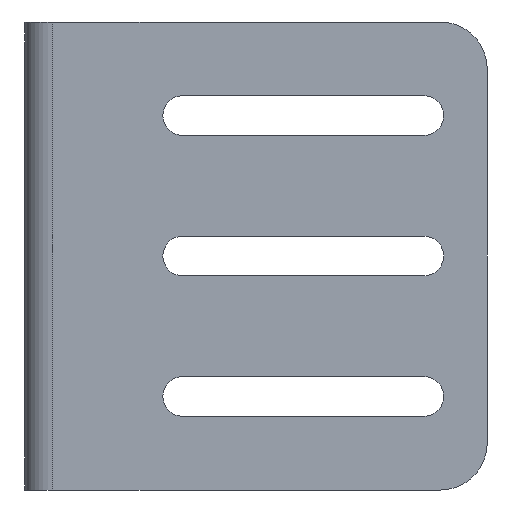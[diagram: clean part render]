
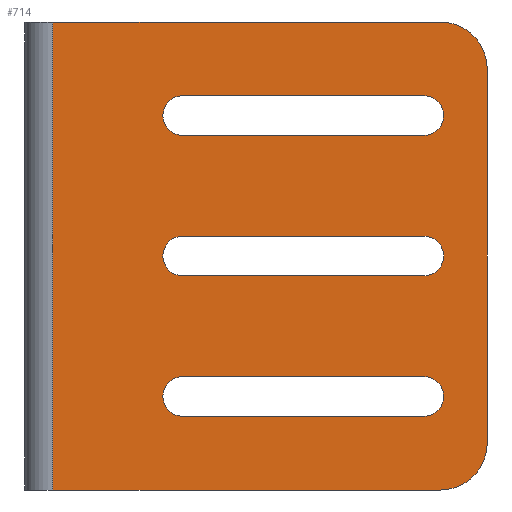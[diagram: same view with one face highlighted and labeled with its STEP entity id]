
A CAD part, front view. The second image highlights one B-rep face of the part: STEP entity #714.
In plain terms, the highlighted planar face has unit normal (0, -1, 0).
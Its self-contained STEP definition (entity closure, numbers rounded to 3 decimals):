
#3 = ORIENTED_EDGE ( 'NONE', *, *, #890, .T. ) ;
#13 = DIRECTION ( 'NONE',  ( 0., 0., -1. ) ) ;
#21 = AXIS2_PLACEMENT_3D ( 'NONE', #69, #354, #266 ) ;
#22 = VERTEX_POINT ( 'NONE', #832 ) ;
#25 = DIRECTION ( 'NONE',  ( 0., 0., 1. ) ) ;
#29 = DIRECTION ( 'NONE',  ( 0., 0., 1. ) ) ;
#48 = VECTOR ( 'NONE', #206, 1000. ) ;
#53 = CARTESIAN_POINT ( 'NONE',  ( 33.75, 0., -15.75 ) ) ;
#69 = CARTESIAN_POINT ( 'NONE',  ( 88.8, 0., -10. ) ) ;
#76 = CARTESIAN_POINT ( 'NONE',  ( 85.25, 0., -15.75 ) ) ;
#80 = EDGE_CURVE ( 'NONE', #650, #610, #694, .T. ) ;
#81 = DIRECTION ( 'NONE',  ( 1., 0., 0. ) ) ;
#97 = VERTEX_POINT ( 'NONE', #872 ) ;
#103 = DIRECTION ( 'NONE',  ( 0., 0., 1. ) ) ;
#105 = VERTEX_POINT ( 'NONE', #349 ) ;
#122 = VERTEX_POINT ( 'NONE', #76 ) ;
#127 = CARTESIAN_POINT ( 'NONE',  ( 85.25, 0., -54.25 ) ) ;
#130 = DIRECTION ( 'NONE',  ( -1., 0., 0. ) ) ;
#139 = CIRCLE ( 'NONE', #402, 4.25 ) ;
#156 = CARTESIAN_POINT ( 'NONE',  ( 33.75, 0., -15.75 ) ) ;
#174 = CARTESIAN_POINT ( 'NONE',  ( 0., 0., -100. ) ) ;
#176 = VERTEX_POINT ( 'NONE', #1040 ) ;
#178 = CARTESIAN_POINT ( 'NONE',  ( 98.8, 0., -10. ) ) ;
#184 = FACE_BOUND ( 'NONE', #741, .T. ) ;
#201 = ORIENTED_EDGE ( 'NONE', *, *, #843, .T. ) ;
#206 = DIRECTION ( 'NONE',  ( 1., 0., 0. ) ) ;
#215 = CARTESIAN_POINT ( 'NONE',  ( 33.75, 0., -20. ) ) ;
#218 = ORIENTED_EDGE ( 'NONE', *, *, #276, .T. ) ;
#219 = EDGE_CURVE ( 'NONE', #511, #610, #498, .T. ) ;
#222 = VECTOR ( 'NONE', #505, 1000. ) ;
#226 = ORIENTED_EDGE ( 'NONE', *, *, #916, .T. ) ;
#236 = ORIENTED_EDGE ( 'NONE', *, *, #566, .T. ) ;
#238 = DIRECTION ( 'NONE',  ( 0., 0., 1. ) ) ;
#244 = CARTESIAN_POINT ( 'NONE',  ( 33.75, 0., -84.25 ) ) ;
#248 = EDGE_CURVE ( 'NONE', #486, #650, #534, .T. ) ;
#251 = CARTESIAN_POINT ( 'NONE',  ( 33.75, 0., -45.75 ) ) ;
#257 = EDGE_CURVE ( 'NONE', #1007, #707, #882, .T. ) ;
#266 = DIRECTION ( 'NONE',  ( 0., 0., -1. ) ) ;
#276 = EDGE_CURVE ( 'NONE', #938, #1007, #139, .T. ) ;
#294 = CARTESIAN_POINT ( 'NONE',  ( 85.25, 0., -20. ) ) ;
#304 = ORIENTED_EDGE ( 'NONE', *, *, #940, .F. ) ;
#306 = CARTESIAN_POINT ( 'NONE',  ( 33.75, 0., -24.25 ) ) ;
#307 = CARTESIAN_POINT ( 'NONE',  ( 85.25, 0., -80. ) ) ;
#312 = CARTESIAN_POINT ( 'NONE',  ( 98.8, 0., -90. ) ) ;
#321 = EDGE_CURVE ( 'NONE', #811, #486, #576, .T. ) ;
#326 = LINE ( 'NONE', #663, #649 ) ;
#327 = EDGE_CURVE ( 'NONE', #105, #811, #1072, .T. ) ;
#330 = ORIENTED_EDGE ( 'NONE', *, *, #1043, .T. ) ;
#338 = DIRECTION ( 'NONE',  ( -1., 0., 0. ) ) ;
#342 = EDGE_CURVE ( 'NONE', #707, #176, #976, .T. ) ;
#349 = CARTESIAN_POINT ( 'NONE',  ( 6., 0., -100. ) ) ;
#354 = DIRECTION ( 'NONE',  ( 0., -1., 0. ) ) ;
#356 = AXIS2_PLACEMENT_3D ( 'NONE', #294, #886, #1071 ) ;
#374 = CIRCLE ( 'NONE', #757, 4.25 ) ;
#376 = CARTESIAN_POINT ( 'NONE',  ( 33.75, 0., -54.25 ) ) ;
#377 = CARTESIAN_POINT ( 'NONE',  ( 0., 0., -100. ) ) ;
#384 = ORIENTED_EDGE ( 'NONE', *, *, #257, .T. ) ;
#395 = CARTESIAN_POINT ( 'NONE',  ( 33.75, 0., -75.75 ) ) ;
#402 = AXIS2_PLACEMENT_3D ( 'NONE', #804, #473, #457 ) ;
#419 = ORIENTED_EDGE ( 'NONE', *, *, #777, .T. ) ;
#435 = AXIS2_PLACEMENT_3D ( 'NONE', #307, #794, #25 ) ;
#451 = CARTESIAN_POINT ( 'NONE',  ( 33.75, 0., -75.75 ) ) ;
#457 = DIRECTION ( 'NONE',  ( 0., 0., 1. ) ) ;
#466 = DIRECTION ( 'NONE',  ( 0., 1., 0. ) ) ;
#473 = DIRECTION ( 'NONE',  ( 0., 1., 0. ) ) ;
#475 = AXIS2_PLACEMENT_3D ( 'NONE', #644, #487, #477 ) ;
#477 = DIRECTION ( 'NONE',  ( 0., 0., 1. ) ) ;
#486 = VERTEX_POINT ( 'NONE', #312 ) ;
#487 = DIRECTION ( 'NONE',  ( 0., 1., 0. ) ) ;
#489 = ORIENTED_EDGE ( 'NONE', *, *, #80, .T. ) ;
#491 = VECTOR ( 'NONE', #1076, 1000. ) ;
#495 = VECTOR ( 'NONE', #630, 1000. ) ;
#498 = LINE ( 'NONE', #594, #1063 ) ;
#505 = DIRECTION ( 'NONE',  ( 1., 0., 0. ) ) ;
#511 = VERTEX_POINT ( 'NONE', #1004 ) ;
#514 = DIRECTION ( 'NONE',  ( 1., 0., 0. ) ) ;
#522 = DIRECTION ( 'NONE',  ( 0., -1., 0. ) ) ;
#528 = ORIENTED_EDGE ( 'NONE', *, *, #327, .T. ) ;
#530 = CIRCLE ( 'NONE', #1044, 4.25 ) ;
#534 = LINE ( 'NONE', #971, #968 ) ;
#536 = PLANE ( 'NONE',  #840 ) ;
#558 = ORIENTED_EDGE ( 'NONE', *, *, #1009, .T. ) ;
#565 = CARTESIAN_POINT ( 'NONE',  ( 88.8, 0., -100. ) ) ;
#566 = EDGE_CURVE ( 'NONE', #22, #737, #1032, .T. ) ;
#576 = CIRCLE ( 'NONE', #736, 10. ) ;
#577 = EDGE_LOOP ( 'NONE', ( #218, #384, #1093, #673 ) ) ;
#580 = VERTEX_POINT ( 'NONE', #127 ) ;
#582 = VECTOR ( 'NONE', #338, 1000. ) ;
#594 = CARTESIAN_POINT ( 'NONE',  ( 0., 0., 0. ) ) ;
#605 = VECTOR ( 'NONE', #514, 1000. ) ;
#610 = VERTEX_POINT ( 'NONE', #687 ) ;
#619 = VERTEX_POINT ( 'NONE', #884 ) ;
#630 = DIRECTION ( 'NONE',  ( 1., 0., 0. ) ) ;
#644 = CARTESIAN_POINT ( 'NONE',  ( 33.75, 0., -50. ) ) ;
#649 = VECTOR ( 'NONE', #1120, 1000. ) ;
#650 = VERTEX_POINT ( 'NONE', #178 ) ;
#651 = LINE ( 'NONE', #988, #689 ) ;
#653 = ORIENTED_EDGE ( 'NONE', *, *, #321, .T. ) ;
#663 = CARTESIAN_POINT ( 'NONE',  ( 6., 0., -100. ) ) ;
#673 = ORIENTED_EDGE ( 'NONE', *, *, #792, .T. ) ;
#680 = ORIENTED_EDGE ( 'NONE', *, *, #219, .F. ) ;
#687 = CARTESIAN_POINT ( 'NONE',  ( 88.8, 0., 0. ) ) ;
#689 = VECTOR ( 'NONE', #130, 1000. ) ;
#694 = CIRCLE ( 'NONE', #21, 10. ) ;
#699 = FACE_BOUND ( 'NONE', #972, .T. ) ;
#707 = VERTEX_POINT ( 'NONE', #786 ) ;
#708 = DIRECTION ( 'NONE',  ( 0., 0., -1. ) ) ;
#714 = ADVANCED_FACE ( 'NONE', ( #801, #699, #184, #1053 ), #536, .T. ) ;
#736 = AXIS2_PLACEMENT_3D ( 'NONE', #1059, #892, #13 ) ;
#737 = VERTEX_POINT ( 'NONE', #790 ) ;
#741 = EDGE_LOOP ( 'NONE', ( #419, #226, #558, #1061 ) ) ;
#751 = DIRECTION ( 'NONE',  ( 0., 1., 0. ) ) ;
#757 = AXIS2_PLACEMENT_3D ( 'NONE', #854, #751, #238 ) ;
#777 = EDGE_CURVE ( 'NONE', #97, #950, #530, .T. ) ;
#786 = CARTESIAN_POINT ( 'NONE',  ( 85.25, 0., -75.75 ) ) ;
#790 = CARTESIAN_POINT ( 'NONE',  ( 85.25, 0., -45.75 ) ) ;
#792 = EDGE_CURVE ( 'NONE', #176, #938, #651, .T. ) ;
#794 = DIRECTION ( 'NONE',  ( 0., 1., 0. ) ) ;
#801 = FACE_BOUND ( 'NONE', #577, .T. ) ;
#804 = CARTESIAN_POINT ( 'NONE',  ( 33.75, 0., -80. ) ) ;
#811 = VERTEX_POINT ( 'NONE', #565 ) ;
#832 = CARTESIAN_POINT ( 'NONE',  ( 33.75, 0., -45.75 ) ) ;
#838 = LINE ( 'NONE', #53, #222 ) ;
#840 = AXIS2_PLACEMENT_3D ( 'NONE', #174, #522, #708 ) ;
#843 = EDGE_CURVE ( 'NONE', #934, #22, #963, .T. ) ;
#847 = ORIENTED_EDGE ( 'NONE', *, *, #248, .T. ) ;
#854 = CARTESIAN_POINT ( 'NONE',  ( 85.25, 0., -50. ) ) ;
#872 = CARTESIAN_POINT ( 'NONE',  ( 33.75, 0., -24.25 ) ) ;
#882 = LINE ( 'NONE', #395, #495 ) ;
#884 = CARTESIAN_POINT ( 'NONE',  ( 85.25, 0., -24.25 ) ) ;
#886 = DIRECTION ( 'NONE',  ( 0., 1., 0. ) ) ;
#890 = EDGE_CURVE ( 'NONE', #737, #580, #374, .T. ) ;
#892 = DIRECTION ( 'NONE',  ( 0., -1., 0. ) ) ;
#903 = LINE ( 'NONE', #376, #491 ) ;
#916 = EDGE_CURVE ( 'NONE', #950, #122, #838, .T. ) ;
#927 = EDGE_LOOP ( 'NONE', ( #528, #653, #847, #489, #680, #304 ) ) ;
#934 = VERTEX_POINT ( 'NONE', #1102 ) ;
#938 = VERTEX_POINT ( 'NONE', #244 ) ;
#940 = EDGE_CURVE ( 'NONE', #105, #511, #326, .T. ) ;
#950 = VERTEX_POINT ( 'NONE', #156 ) ;
#963 = CIRCLE ( 'NONE', #475, 4.25 ) ;
#968 = VECTOR ( 'NONE', #103, 1000. ) ;
#971 = CARTESIAN_POINT ( 'NONE',  ( 98.8, 0., -100. ) ) ;
#972 = EDGE_LOOP ( 'NONE', ( #201, #236, #3, #330 ) ) ;
#976 = CIRCLE ( 'NONE', #435, 4.25 ) ;
#988 = CARTESIAN_POINT ( 'NONE',  ( 33.75, 0., -84.25 ) ) ;
#1004 = CARTESIAN_POINT ( 'NONE',  ( 6., 0., 0. ) ) ;
#1007 = VERTEX_POINT ( 'NONE', #451 ) ;
#1009 = EDGE_CURVE ( 'NONE', #122, #619, #1132, .T. ) ;
#1032 = LINE ( 'NONE', #251, #605 ) ;
#1040 = CARTESIAN_POINT ( 'NONE',  ( 85.25, 0., -84.25 ) ) ;
#1043 = EDGE_CURVE ( 'NONE', #580, #934, #903, .T. ) ;
#1044 = AXIS2_PLACEMENT_3D ( 'NONE', #215, #466, #29 ) ;
#1053 = FACE_OUTER_BOUND ( 'NONE', #927, .T. ) ;
#1059 = CARTESIAN_POINT ( 'NONE',  ( 88.8, 0., -90. ) ) ;
#1061 = ORIENTED_EDGE ( 'NONE', *, *, #1091, .T. ) ;
#1063 = VECTOR ( 'NONE', #81, 1000. ) ;
#1071 = DIRECTION ( 'NONE',  ( 0., 0., 1. ) ) ;
#1072 = LINE ( 'NONE', #377, #48 ) ;
#1076 = DIRECTION ( 'NONE',  ( -1., 0., 0. ) ) ;
#1085 = LINE ( 'NONE', #306, #582 ) ;
#1091 = EDGE_CURVE ( 'NONE', #619, #97, #1085, .T. ) ;
#1093 = ORIENTED_EDGE ( 'NONE', *, *, #342, .T. ) ;
#1102 = CARTESIAN_POINT ( 'NONE',  ( 33.75, 0., -54.25 ) ) ;
#1120 = DIRECTION ( 'NONE',  ( 0., 0., 1. ) ) ;
#1132 = CIRCLE ( 'NONE', #356, 4.25 ) ;
